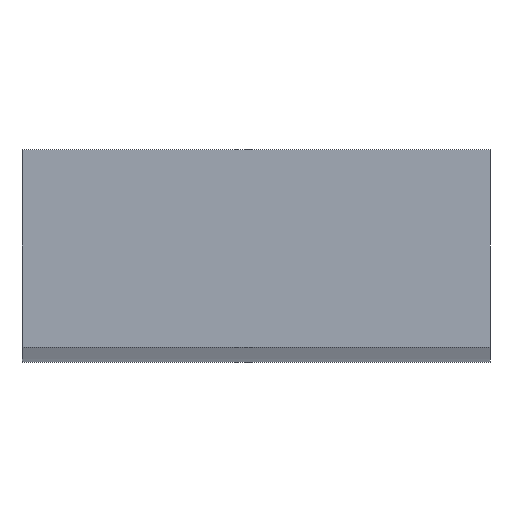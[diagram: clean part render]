
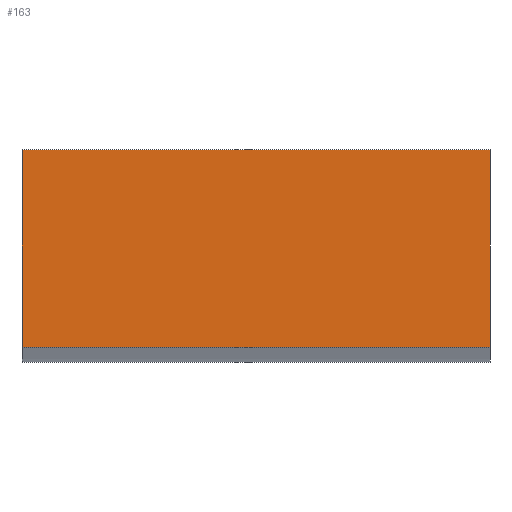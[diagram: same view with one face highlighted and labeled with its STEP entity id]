
A CAD part, front view. The second image highlights one B-rep face of the part: STEP entity #163.
In plain terms, the highlighted planar face has unit normal (0, -1, 0).
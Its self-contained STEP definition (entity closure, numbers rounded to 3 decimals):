
#18=PLANE('',#188);
#27=FACE_OUTER_BOUND('',#36,.T.);
#36=EDGE_LOOP('',(#138,#139,#140,#141));
#41=LINE('',#242,#60);
#43=LINE('',#248,#62);
#51=LINE('',#264,#70);
#56=LINE('',#273,#75);
#60=VECTOR('',#199,1.);
#62=VECTOR('',#205,1.);
#70=VECTOR('',#217,1.);
#75=VECTOR('',#224,1.);
#81=VERTEX_POINT('',#238);
#83=VERTEX_POINT('',#241);
#85=VERTEX_POINT('',#247);
#91=VERTEX_POINT('',#263);
#96=EDGE_CURVE('',#83,#81,#41,.T.);
#99=EDGE_CURVE('',#81,#85,#43,.T.);
#107=EDGE_CURVE('',#83,#91,#51,.T.);
#112=EDGE_CURVE('',#91,#85,#56,.T.);
#138=ORIENTED_EDGE('',*,*,#96,.T.);
#139=ORIENTED_EDGE('',*,*,#99,.T.);
#140=ORIENTED_EDGE('',*,*,#112,.F.);
#141=ORIENTED_EDGE('',*,*,#107,.F.);
#163=ADVANCED_FACE('',(#27),#18,.F.);
#188=AXIS2_PLACEMENT_3D('',#272,#222,#223);
#199=DIRECTION('',(1.,0.,0.));
#205=DIRECTION('',(0.,0.,1.));
#217=DIRECTION('',(0.,0.,1.));
#222=DIRECTION('center_axis',(0.,1.,0.));
#223=DIRECTION('ref_axis',(0.,0.,1.));
#224=DIRECTION('',(1.,0.,0.));
#238=CARTESIAN_POINT('',(-9.8,1.65,-10.181));
#241=CARTESIAN_POINT('',(-10.4,1.65,-10.181));
#242=CARTESIAN_POINT('',(-10.4,1.65,-10.181));
#247=CARTESIAN_POINT('',(-9.8,1.65,-9.927));
#248=CARTESIAN_POINT('',(-9.8,1.65,-8.775));
#263=CARTESIAN_POINT('',(-10.4,1.65,-9.927));
#264=CARTESIAN_POINT('',(-10.4,1.65,-8.775));
#272=CARTESIAN_POINT('Origin',(-10.41,1.65,-10.55));
#273=CARTESIAN_POINT('',(-10.28,1.65,-9.927));
